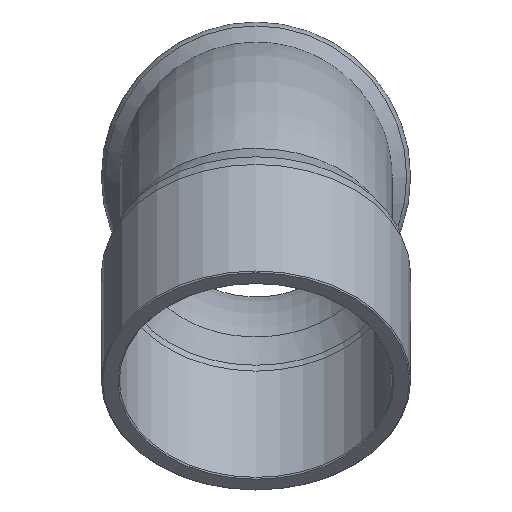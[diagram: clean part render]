
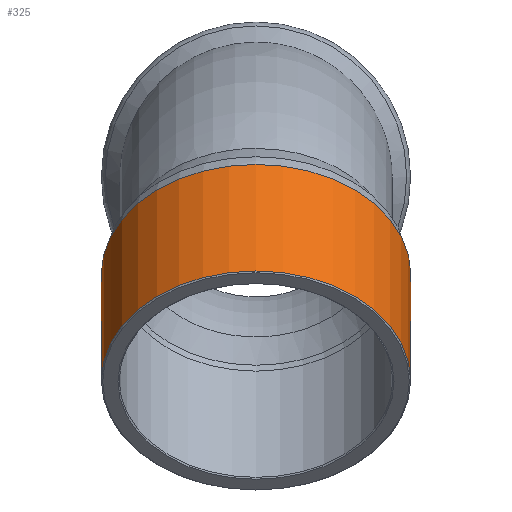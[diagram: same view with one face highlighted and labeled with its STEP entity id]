
A CAD part, top view. The second image highlights one B-rep face of the part: STEP entity #325.
In plain terms, the highlighted free-form (B-spline) face has degree [1, 2] with [2, 9] control points.
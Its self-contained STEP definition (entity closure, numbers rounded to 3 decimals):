
#273=CARTESIAN_POINT('',(0.,35.092,68.043));
#274=VERTEX_POINT('',#273);
#275=CARTESIAN_POINT('',(0.0,18.526,51.477));
#276=DIRECTION('',(0.0,-0.707,0.707));
#277=DIRECTION('',(0.0,-0.707,-0.707));
#278=AXIS2_PLACEMENT_3D('',#275,#276,#277);
#279=CIRCLE('',#278,23.427);
#280=EDGE_CURVE('',#274,#274,#279,.T.);
#285=CARTESIAN_POINT('',(0.,34.691,2.181));
#286=CARTESIAN_POINT('',(0.,-14.605,51.477));
#287=CARTESIAN_POINT('',(-23.427,34.691,2.181));
#288=CARTESIAN_POINT('',(-23.427,-14.605,51.477));
#289=CARTESIAN_POINT('',(-23.427,51.257,18.746));
#290=CARTESIAN_POINT('',(-23.427,1.96,68.043));
#291=CARTESIAN_POINT('',(-23.427,67.823,35.312));
#292=CARTESIAN_POINT('',(-23.427,18.526,84.609));
#293=CARTESIAN_POINT('',(0.,67.823,35.312));
#294=CARTESIAN_POINT('',(0.,18.526,84.609));
#295=CARTESIAN_POINT('',(23.427,67.823,35.312));
#296=CARTESIAN_POINT('',(23.427,18.526,84.609));
#297=CARTESIAN_POINT('',(23.427,51.257,18.746));
#298=CARTESIAN_POINT('',(23.427,1.96,68.043));
#299=CARTESIAN_POINT('',(23.427,34.691,2.181));
#300=CARTESIAN_POINT('',(23.427,-14.605,51.477));
#301=CARTESIAN_POINT('',(0.,34.691,2.181));
#302=CARTESIAN_POINT('',(0.,-14.605,51.477));
#310=(BOUNDED_SURFACE()B_SPLINE_SURFACE(1,2,((#285,#287,#289,#291,#293,#295,#297,#299,#301),(#286,#288,#290,#292,#294,#296,#298,#300,#302)),.UNSPECIFIED.,.F.,.T.,.U.)B_SPLINE_SURFACE_WITH_KNOTS((2,2),(3,2,2,2,3),(-1.492,1.484),(0.0,36.8,73.6,110.399,147.199),.UNSPECIFIED.)GEOMETRIC_REPRESENTATION_ITEM()RATIONAL_B_SPLINE_SURFACE(((1.0,0.707,1.0,0.707,1.0,0.707,1.0,0.707,1.0),(1.0,0.707,1.0,0.707,1.0,0.707,1.0,0.707,1.0)))REPRESENTATION_ITEM('')SURFACE());
#311=CARTESIAN_POINT('',(0.0,51.257,51.878));
#312=VERTEX_POINT('',#311);
#313=CARTESIAN_POINT('',(0.0,34.691,35.312));
#314=DIRECTION('',(0.0,0.707,-0.707));
#315=DIRECTION('',(0.0,0.707,0.707));
#316=AXIS2_PLACEMENT_3D('',#313,#314,#315);
#317=CIRCLE('',#316,23.427);
#318=EDGE_CURVE('',#312,#312,#317,.T.);
#319=ORIENTED_EDGE('',*,*,#318,.F.);
#320=EDGE_LOOP('',(#319));
#321=FACE_OUTER_BOUND('',#320,.T.);
#322=ORIENTED_EDGE('',*,*,#280,.F.);
#323=EDGE_LOOP('',(#322));
#324=FACE_BOUND('',#323,.T.);
#325=ADVANCED_FACE('',(#321,#324),#310,.T.);
